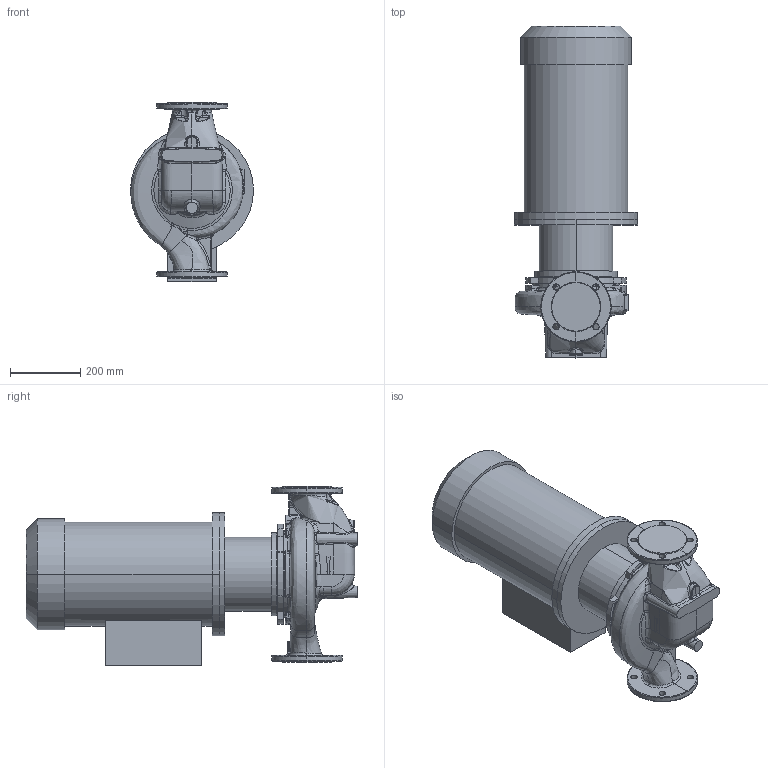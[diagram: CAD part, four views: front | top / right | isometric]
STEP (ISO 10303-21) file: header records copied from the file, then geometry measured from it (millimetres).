
FILE_DESCRIPTION (( 'STEP AP214' ), '1' );
FILE_NAME ('KRL 80-210-2-18,5.STEP', '2026-04-06T11:27:46', ( '' ), ( '' ), 'SwSTEP 2.0', 'SolidWorks 2016', '' );
FILE_SCHEMA (( 'AUTOMOTIVE_DESIGN' ));
Length unit declared in the file: millimetre
Products named in the file (1): KRL 80-210-2-18,5
Bounding box: 350 x 944.3 x 510 mm (x, y, z)
Volume: 64703067.4 mm3; surface area: 1807994.7 mm2
Topology: 4 solids, 4 shells, 669 faces, 1656 edges, 986 vertices
Faces by surface type: bspline 324, plane 126, cylinder 120, cone 50, torus 28, sphere 21
Entity records: 69302 total; most frequent: CARTESIAN_POINT 49060, ORIENTED_EDGE 3256, DIRECTION 1900, EDGE_CURVE 1628, VERTEX_POINT 986, AXIS2_PLACEMENT_3D 811, B_SPLINE_CURVE_WITH_KNOTS 757, EDGE_LOOP 704
